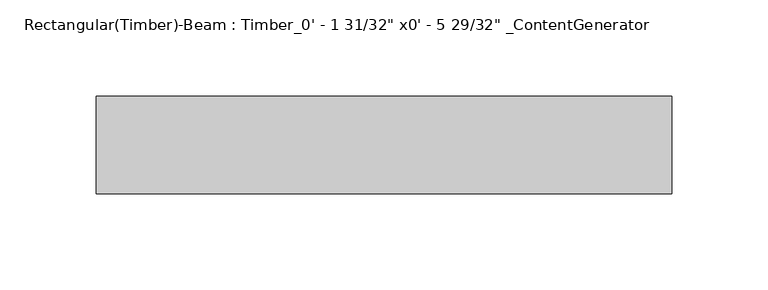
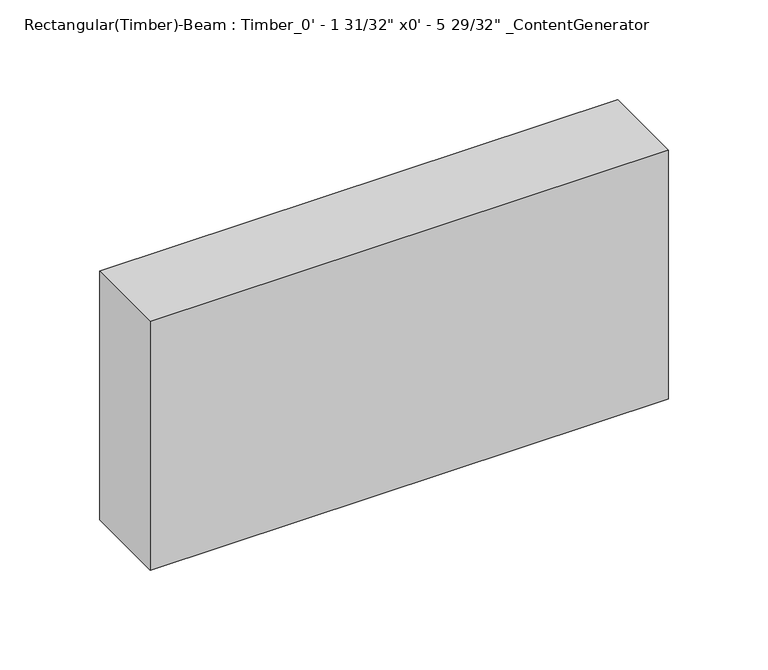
"""IFC4 building model written with IfcOpenShell, lengths in millimetres: beam geometry."""

from ifc_helpers import new_model, si_unit, frame, origin, place, context, project, spatial, polyline, outline, extrude, source, transform, mapped, element, save


def beam_384ac97f(model_context):
    return source(origin(), model_context, "Body", "SweptSolid", [
        extrude(outline(polyline([(149.8650127, 25.4), (149.8650127, -25.4), (-149.8650127, -25.4), (-149.8650127, 25.4), (149.8650127, 25.4)])), frame((0.0, 0.0, -76.2), z_axis=(0.0, 0.0, 1.0), x_axis=(1.0, 0.0, 0.0)), (0.0, 0.0, 1.0), 152.4),
    ])


if __name__ == "__main__":
    model = new_model("IFC4")
    model_context = context("Model", 3, world=origin())
    ifc_project = project(units=[si_unit("LENGTHUNIT", "METRE", prefix="MILLI")], contexts=[model_context])
    site = spatial("IfcSite", under=ifc_project)
    building = spatial("IfcBuilding", under=site)
    placement = place(None, origin())
    beam_shape = beam_384ac97f(model_context)
    element("IfcBeam", 1, ObjectType="Rectangular(Timber)-Beam : Timber_0' - 1 31/32\" x0' - 5 29/32\" _ContentGenerator", at=placement, inside=building, context=model_context, shape_type="MappedRepresentation", body=[
        mapped(beam_shape, transform((0.0, 0.0, 0.0), x_axis=(1.0, 0.0, 0.0), y_axis=(0.0, 1.0, 0.0), z_axis=(0.0, 0.0, 1.0))),
    ])
    save(model, "model.ifc")
